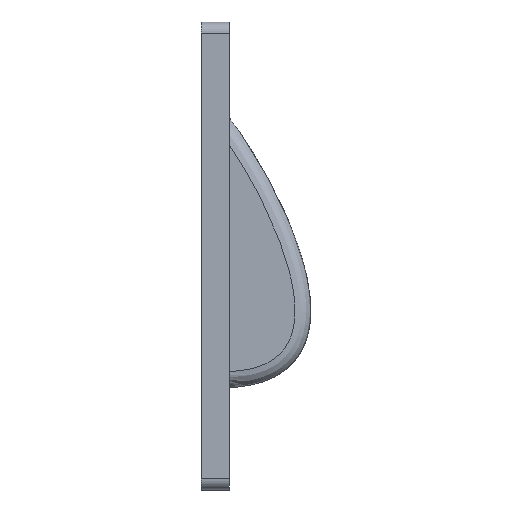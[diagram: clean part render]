
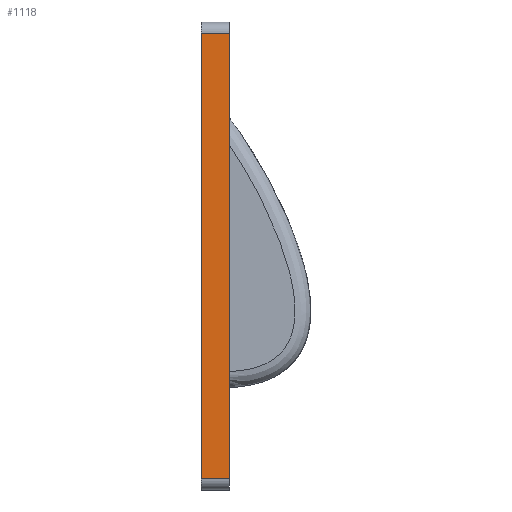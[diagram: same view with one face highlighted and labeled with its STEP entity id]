
A CAD part, left-side view. The second image highlights one B-rep face of the part: STEP entity #1118.
In plain terms, the highlighted planar face has unit normal (-1, 0, 0).
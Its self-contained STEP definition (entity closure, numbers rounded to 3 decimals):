
#171 = DIRECTION ( 'NONE',  ( 0., 1., 0. ) ) ;
#174 = VECTOR ( 'NONE', #1956, 1000. ) ;
#199 = FACE_OUTER_BOUND ( 'NONE', #625, .T. ) ;
#408 = CARTESIAN_POINT ( 'NONE',  ( -64., 11.5, 39.5 ) ) ;
#411 = VERTEX_POINT ( 'NONE', #408 ) ;
#417 = VECTOR ( 'NONE', #171, 1000. ) ;
#424 = EDGE_CURVE ( 'NONE', #1292, #885, #451, .T. ) ;
#451 = LINE ( 'NONE', #770, #174 ) ;
#625 = EDGE_LOOP ( 'NONE', ( #1525, #1585, #1016, #985 ) ) ;
#732 = DIRECTION ( 'NONE',  ( 1., 0., 0. ) ) ;
#770 = CARTESIAN_POINT ( 'NONE',  ( -64., 6.5, -41.5 ) ) ;
#885 = VERTEX_POINT ( 'NONE', #2808 ) ;
#985 = ORIENTED_EDGE ( 'NONE', *, *, #2600, .T. ) ;
#1016 = ORIENTED_EDGE ( 'NONE', *, *, #1787, .T. ) ;
#1099 = DIRECTION ( 'NONE',  ( 0., -1., 0. ) ) ;
#1118 = ADVANCED_FACE ( 'NONE', ( #199 ), #3798, .F. ) ;
#1292 = VERTEX_POINT ( 'NONE', #1498 ) ;
#1386 = CARTESIAN_POINT ( 'NONE',  ( -64., 0., 0. ) ) ;
#1498 = CARTESIAN_POINT ( 'NONE',  ( -64., 6.5, 39.5 ) ) ;
#1525 = ORIENTED_EDGE ( 'NONE', *, *, #2427, .T. ) ;
#1585 = ORIENTED_EDGE ( 'NONE', *, *, #424, .F. ) ;
#1787 = EDGE_CURVE ( 'NONE', #1292, #411, #3804, .T. ) ;
#1854 = VERTEX_POINT ( 'NONE', #1965 ) ;
#1956 = DIRECTION ( 'NONE',  ( 0., 0., -1. ) ) ;
#1965 = CARTESIAN_POINT ( 'NONE',  ( -64., 11.5, -39.5 ) ) ;
#2100 = LINE ( 'NONE', #3908, #2560 ) ;
#2427 = EDGE_CURVE ( 'NONE', #1854, #885, #2956, .T. ) ;
#2560 = VECTOR ( 'NONE', #3886, 1000. ) ;
#2600 = EDGE_CURVE ( 'NONE', #411, #1854, #2100, .T. ) ;
#2808 = CARTESIAN_POINT ( 'NONE',  ( -64., 6.5, -39.5 ) ) ;
#2877 = CARTESIAN_POINT ( 'NONE',  ( -64., 0., 39.5 ) ) ;
#2956 = LINE ( 'NONE', #3194, #3363 ) ;
#3061 = AXIS2_PLACEMENT_3D ( 'NONE', #1386, #732, #3761 ) ;
#3194 = CARTESIAN_POINT ( 'NONE',  ( -64., 0., -39.5 ) ) ;
#3363 = VECTOR ( 'NONE', #1099, 1000. ) ;
#3761 = DIRECTION ( 'NONE',  ( 0., 0., -1. ) ) ;
#3798 = PLANE ( 'NONE',  #3061 ) ;
#3804 = LINE ( 'NONE', #2877, #417 ) ;
#3886 = DIRECTION ( 'NONE',  ( 0., 0., -1. ) ) ;
#3908 = CARTESIAN_POINT ( 'NONE',  ( -64., 11.5, 41.5 ) ) ;
